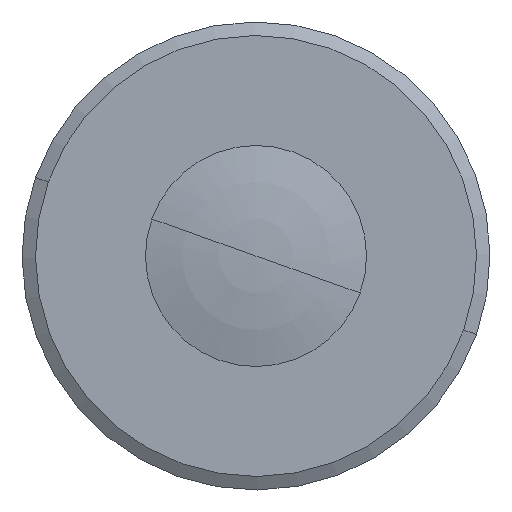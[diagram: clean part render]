
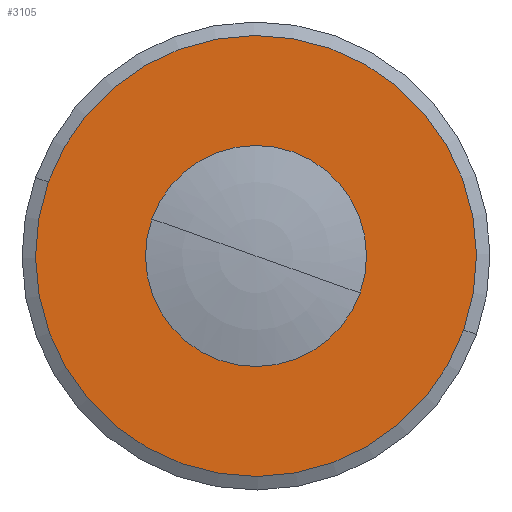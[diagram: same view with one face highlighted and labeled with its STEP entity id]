
A CAD part, left-side view. The second image highlights one B-rep face of the part: STEP entity #3105.
In plain terms, the highlighted planar face has unit normal (-1, 0, 0).
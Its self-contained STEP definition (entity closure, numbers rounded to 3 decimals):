
#1808 = DIRECTION ( 'NONE',  ( 0., 0., 1. ) ) ;
#1809 = DIRECTION ( 'NONE',  ( -1., 0., 0. ) ) ;
#1810 = CARTESIAN_POINT ( 'NONE',  ( 9.037, 0., 0. ) ) ;
#1811 = DIRECTION ( 'NONE',  ( 0., 0., 1. ) ) ;
#1812 = DIRECTION ( 'NONE',  ( -1., 0., 0. ) ) ;
#1813 = CARTESIAN_POINT ( 'NONE',  ( 9.037, 0., 0. ) ) ;
#1839 = DIRECTION ( 'NONE',  ( 0., 0., 1. ) ) ;
#1841 = DIRECTION ( 'NONE',  ( -1., 0., 0. ) ) ;
#1842 = CARTESIAN_POINT ( 'NONE',  ( 9.037, 0., 0. ) ) ;
#1848 = DIRECTION ( 'NONE',  ( 0., 0., 1. ) ) ;
#1849 = DIRECTION ( 'NONE',  ( -1., 0., 0. ) ) ;
#1850 = CARTESIAN_POINT ( 'NONE',  ( 9.037, 0., 0. ) ) ;
#2150 = ORIENTED_EDGE ( 'NONE', *, *, #3553, .F. ) ;
#2151 = ORIENTED_EDGE ( 'NONE', *, *, #3554, .T. ) ;
#2152 = ORIENTED_EDGE ( 'NONE', *, *, #3539, .T. ) ;
#2326 = EDGE_LOOP ( 'NONE', ( #2151, #2152 ) ) ;
#2327 = EDGE_LOOP ( 'NONE', ( #6398, #2150 ) ) ;
#3105 = ADVANCED_FACE ( 'NONE', ( #5779, #5772 ), #7733, .F. ) ;
#3247 = AXIS2_PLACEMENT_3D ( 'NONE', #1810, #1809, #1808 ) ;
#3248 = AXIS2_PLACEMENT_3D ( 'NONE', #1813, #1812, #1811 ) ;
#3257 = AXIS2_PLACEMENT_3D ( 'NONE', #1842, #1841, #1839 ) ;
#3258 = AXIS2_PLACEMENT_3D ( 'NONE', #1850, #1849, #1848 ) ;
#3390 = AXIS2_PLACEMENT_3D ( 'NONE', #7736, #7731, #7730 ) ;
#3539 = EDGE_CURVE ( 'NONE', #6496, #6497, #7179, .T. ) ;
#3542 = EDGE_CURVE ( 'NONE', #6500, #6488, #7177, .T. ) ;
#3553 = EDGE_CURVE ( 'NONE', #6488, #6500, #7160, .T. ) ;
#3554 = EDGE_CURVE ( 'NONE', #6497, #6496, #7159, .T. ) ;
#5772 = FACE_OUTER_BOUND ( 'NONE', #2326, .T. ) ;
#5779 = FACE_BOUND ( 'NONE', #2327, .T. ) ;
#6398 = ORIENTED_EDGE ( 'NONE', *, *, #3542, .F. ) ;
#6488 = VERTEX_POINT ( 'NONE', #9643 ) ;
#6496 = VERTEX_POINT ( 'NONE', #9651 ) ;
#6497 = VERTEX_POINT ( 'NONE', #9652 ) ;
#6500 = VERTEX_POINT ( 'NONE', #9655 ) ;
#7159 = CIRCLE ( 'NONE', #3247, 8.48 ) ;
#7160 = CIRCLE ( 'NONE', #3248, 4.25 ) ;
#7177 = CIRCLE ( 'NONE', #3257, 4.25 ) ;
#7179 = CIRCLE ( 'NONE', #3258, 8.48 ) ;
#7730 = DIRECTION ( 'NONE',  ( 0., 0., -1. ) ) ;
#7731 = DIRECTION ( 'NONE',  ( 1., 0., 0. ) ) ;
#7733 = PLANE ( 'NONE',  #3390 ) ;
#7736 = CARTESIAN_POINT ( 'NONE',  ( 9.037, 4.25, 0. ) ) ;
#9643 = CARTESIAN_POINT ( 'NONE',  ( 9.037, 0., -4.25 ) ) ;
#9651 = CARTESIAN_POINT ( 'NONE',  ( 9.037, 0., 8.48 ) ) ;
#9652 = CARTESIAN_POINT ( 'NONE',  ( 9.037, 0., -8.48 ) ) ;
#9655 = CARTESIAN_POINT ( 'NONE',  ( 9.037, 0., 4.25 ) ) ;
